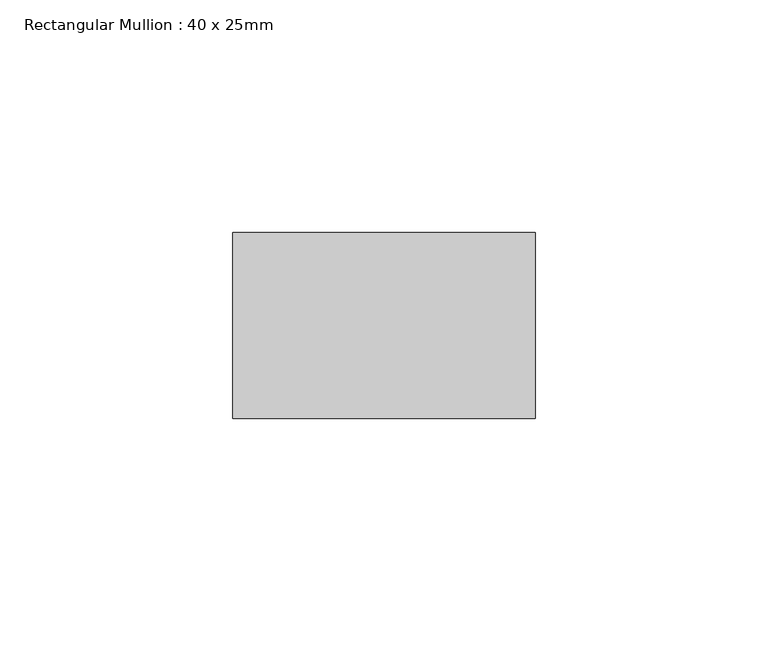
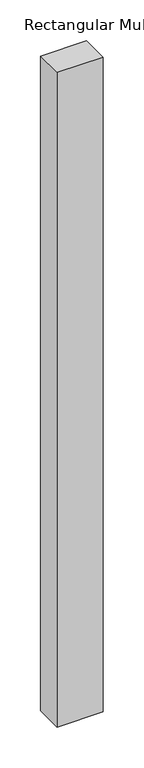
"""IFC4 building model written with IfcOpenShell, lengths in millimetres: member geometry, Rectangular Mullion : 40 x 25mm."""

from ifc_helpers import new_model, si_unit, frame, origin, place, context, project, spatial, polyline, outline, extrude, source, transform, mapped, element, save


def rectangular_mullion_40_x_25mm_89360c49(model_context):
    return source(origin(), model_context, "Body", "SweptSolid", [
        extrude(outline(polyline([(0.0, -20.0), (0.0, -60.0), (-65.0, -60.0), (-65.0, -20.0), (0.0, -20.0)])), frame((0.0, 0.0, -977.9333333), z_axis=(0.0, 0.0, 1.0), x_axis=(1.0, 0.0, 0.0)), (0.0, 0.0, 1.0), 977.9333333),
    ])


if __name__ == "__main__":
    model = new_model("IFC4")
    model_context = context("Model", 3, world=origin())
    ifc_project = project(units=[si_unit("LENGTHUNIT", "METRE", prefix="MILLI")], contexts=[model_context])
    site = spatial("IfcSite", under=ifc_project)
    building = spatial("IfcBuilding", under=site)
    placement = place(None, origin())
    rectangular_mullion_40_x_25mm_shape = rectangular_mullion_40_x_25mm_89360c49(model_context)
    element("IfcMember", 1, ObjectType="Rectangular Mullion : 40 x 25mm", at=placement, inside=building, context=model_context, shape_type="MappedRepresentation", body=[
        mapped(rectangular_mullion_40_x_25mm_shape, transform((0.0, 0.0, 0.0), x_axis=(1.0, 0.0, 0.0), y_axis=(0.0, 1.0, 0.0), z_axis=(0.0, 0.0, 1.0))),
    ])
    save(model, "model.ifc")
